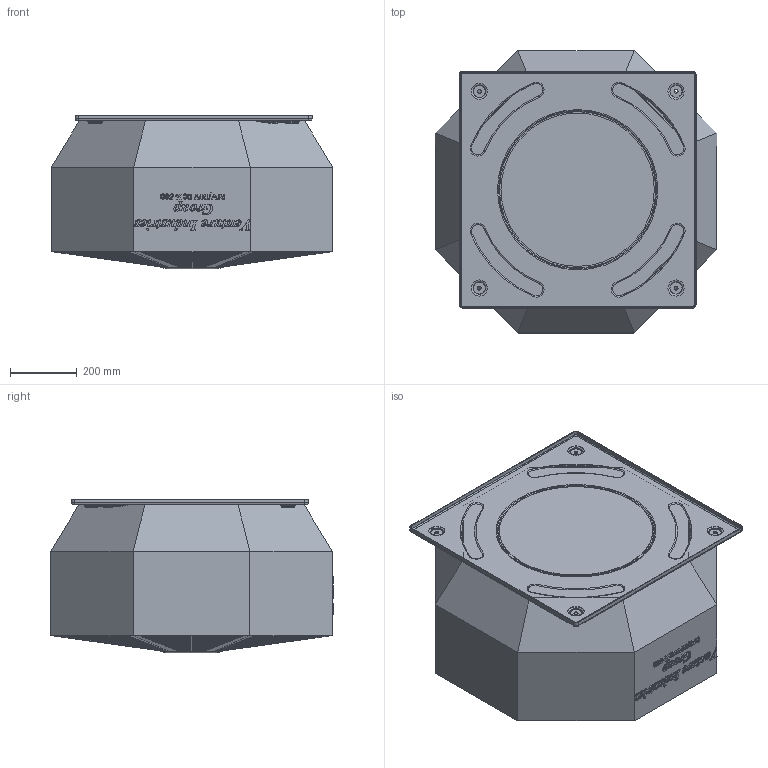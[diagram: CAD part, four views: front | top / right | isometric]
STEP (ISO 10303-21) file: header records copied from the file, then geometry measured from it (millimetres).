
FILE_DESCRIPTION(/* description */ (''),/* implementation_level */ '2;1');
FILE_NAME(/* name */ 'D:\Piotr - Dokumenty\Modele uproszczone\RFV\RFV X-500\komplet\RFV_RFV_EC_X_500_X.stp',/* time_stamp */ '2021-03-16T11:02:19+01:00',/* author */ ('Piotr.Nowotniak'),/* organization */ (''),/* preprocessor_version */ 'ST-DEVELOPER v18',/* originating_system */ 'Autodesk Inventor 2020',/* authorisation */ '');
FILE_SCHEMA (('AUTOMOTIVE_DESIGN { 1 0 10303 214 3 1 1 }'));
Products named in the file (1): RFV_RFV_EC_X_500_X
Bounding box: 845 x 848 x 461 mm (x, y, z)
Volume: 226800529.9 mm3; surface area: 3220649.7 mm2
Topology: 1 solids, 9 shells, 4641 faces, 12431 edges, 8281 vertices
Faces by surface type: plane 2495, cylinder 1717, bspline 371, torus 43, cone 15
Full cylindrical faces by diameter (mm): 12 x4, 460 x1
Entity records: 152778 total; most frequent: CARTESIAN_POINT 30775, ORIENTED_EDGE 24862, DIRECTION 23811, EDGE_CURVE 12431, VERTEX_POINT 8281, LINE 8079, VECTOR 8079, AXIS2_PLACEMENT_3D 7866
